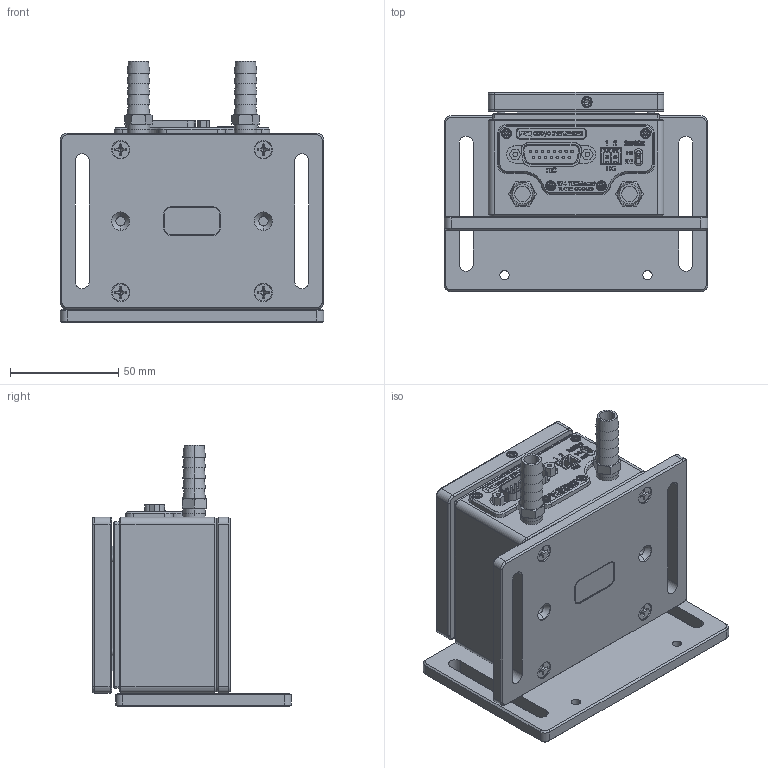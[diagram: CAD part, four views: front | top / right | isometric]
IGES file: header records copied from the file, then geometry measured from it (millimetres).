
Start section: SolidWorks IGES file using analytic representation for surfaces
Global section: file name: C:\Dropbox\Mechanical Engr\Development Projects (P)\274 TECMount\Customer Model Development\Step 6 - 274-TECMount.IGS; native system: SolidWorks 2014; preprocessor: SolidWorks 2014; author: mhanson; date: 150409.092653; units: inch
Bounding box: 121.92 x 91.94 x 120.9 mm (x, y, z)
Volume: 486028.1 mm3; surface area: 97328.1 mm2
Topology: 3 solids, 3 shells, 1920 faces, 4992 edges, 3189 vertices
Faces by surface type: plane 958, revolution 797, bspline 165
